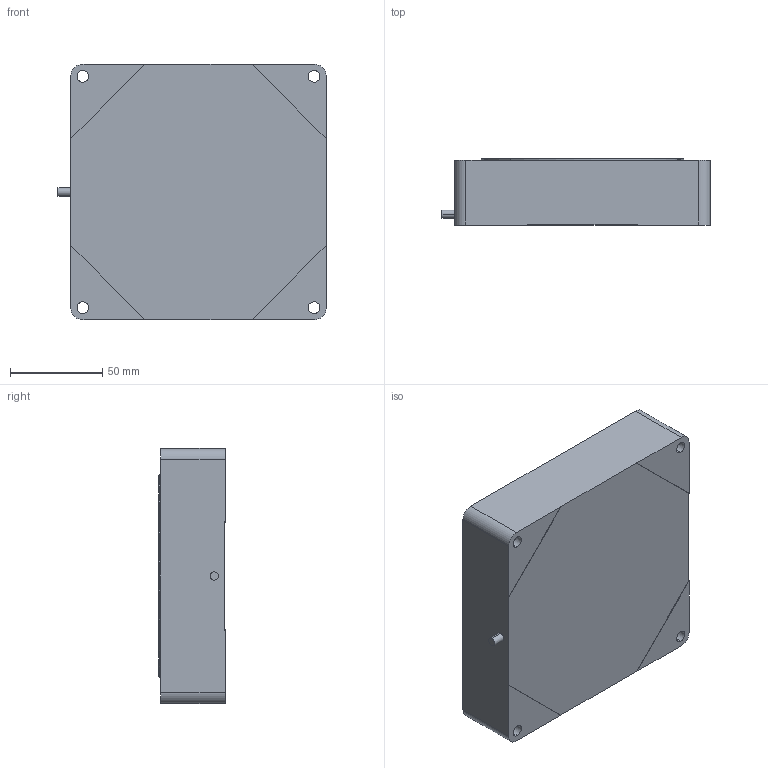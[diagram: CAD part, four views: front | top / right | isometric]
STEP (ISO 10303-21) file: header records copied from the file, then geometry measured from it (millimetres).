
FILE_DESCRIPTION (( 'STEP AP203' ), '1' );
FILE_NAME ('24014喜渡芞ぜ嘛-卼栥-24.04.19.STEP', '2024-04-19T06:45:17', ( '' ), ( '' ), 'SwSTEP 2.0', 'SolidWorks 2016', '' );
FILE_SCHEMA (( 'CONFIG_CONTROL_DESIGN' ));
Length unit declared in the file: millimetre
Products named in the file (1): 24014喜渡芞ぜ嘛-卼栥-24.04.19
Bounding box: 145 x 36 x 138 mm (x, y, z)
Volume: 659906 mm3; surface area: 65719.3 mm2
Topology: 1 solids, 1 shells, 149 faces, 358 edges, 202 vertices
Faces by surface type: cylinder 74, cone 50, plane 25
Entity records: 4143 total; most frequent: DIRECTION 776, CARTESIAN_POINT 670, ORIENTED_EDGE 636, EDGE_CURVE 318, AXIS2_PLACEMENT_3D 308, VERTEX_POINT 202, EDGE_LOOP 188, LINE 160
